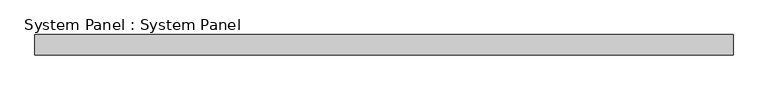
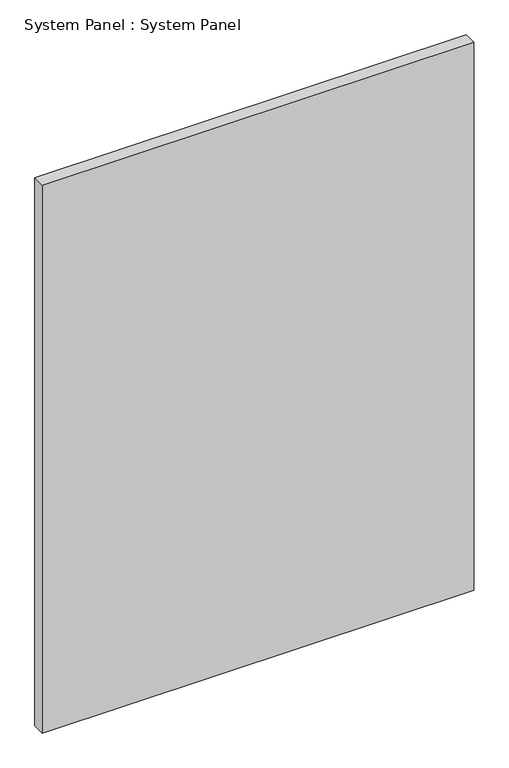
"""IFC4 building model written with IfcOpenShell, lengths in millimetres: plate geometry, System Panel : System Panel."""

from ifc_helpers import new_model, si_unit, origin, origin_with_axes, place, context, project, spatial, polyline, outline, extrude, source, transform, mapped, element, save


def system_panel_system_panel_b373457a(model_context):
    return source(origin(), model_context, "Body", "SweptSolid", [
        extrude(outline(polyline([(1735.6576526, -50.8), (-1735.6576526, -50.8), (-1735.6576526, 50.8), (1735.6576526, 50.8), (1735.6576526, -50.8)])), origin_with_axes(), (0.0, 0.0, 1.0), 4660.9),
    ])


if __name__ == "__main__":
    model = new_model("IFC4")
    model_context = context("Model", 3, world=origin())
    ifc_project = project(units=[si_unit("LENGTHUNIT", "METRE", prefix="MILLI")], contexts=[model_context])
    site = spatial("IfcSite", under=ifc_project)
    building = spatial("IfcBuilding", under=site)
    placement = place(None, origin())
    system_panel_system_panel_shape = system_panel_system_panel_b373457a(model_context)
    element("IfcPlate", 1, ObjectType="System Panel : System Panel", at=placement, inside=building, context=model_context, shape_type="MappedRepresentation", body=[
        mapped(system_panel_system_panel_shape, transform((0.0, 0.0, 0.0), x_axis=(1.0, 0.0, 0.0), y_axis=(0.0, 1.0, 0.0), z_axis=(0.0, 0.0, 1.0))),
    ])
    save(model, "model.ifc")
